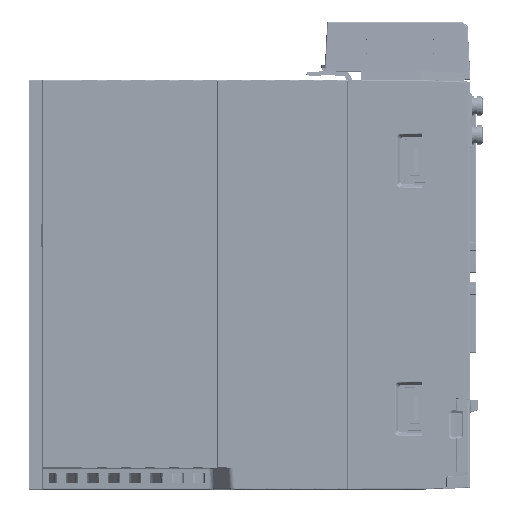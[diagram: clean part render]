
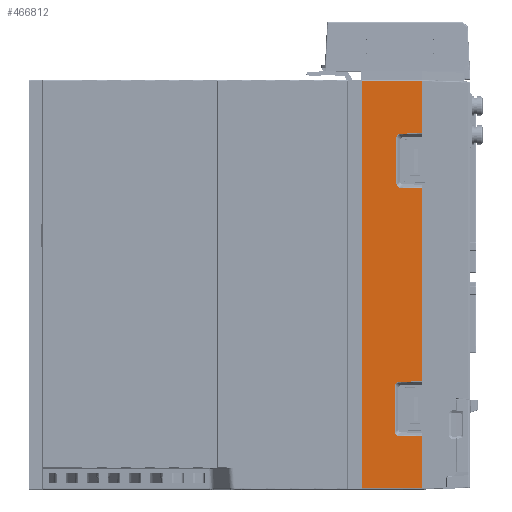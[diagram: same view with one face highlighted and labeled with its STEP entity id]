
A CAD part, left-side view. The second image highlights one B-rep face of the part: STEP entity #466812.
In plain terms, the highlighted planar face has unit normal (-1, 0, 0) as drawn and (0, 0, 1) by its records, which use the part's own axes.
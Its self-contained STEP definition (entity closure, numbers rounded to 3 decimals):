
#426841=DIRECTION('',(1.,0.,0.));
#426842=VECTOR('',#426841,169.);
#426843=CARTESIAN_POINT('',(-84.5,54.185,13.653));
#426844=LINE('',#426843,#426842);
#426848=DIRECTION('',(-1.,0.,0.));
#426849=VECTOR('',#426848,21.545);
#426850=CARTESIAN_POINT('',(-62.955,79.018,
13.653));
#426851=LINE('',#426850,#426849);
#426855=DIRECTION('',(-0.028,1.,
0.));
#426856=VECTOR('',#426855,8.898);
#426857=CARTESIAN_POINT('',(-62.708,70.123,
13.653));
#426858=LINE('',#426857,#426856);
#426862=DIRECTION('',(-0.028,-1.,
0.));
#426863=VECTOR('',#426862,8.898);
#426864=CARTESIAN_POINT('',(-40.045,79.018,
13.653));
#426865=LINE('',#426864,#426863);
#426869=DIRECTION('',(-1.,0.,0.));
#426870=VECTOR('',#426869,80.05);
#426871=CARTESIAN_POINT('',(40.005,79.018,
13.653));
#426872=LINE('',#426871,#426870);
#426876=DIRECTION('',(-0.028,1.,
0.));
#426877=VECTOR('',#426876,9.624);
#426878=CARTESIAN_POINT('',(40.272,69.397,
13.653));
#426879=LINE('',#426878,#426877);
#426883=DIRECTION('',(-0.028,-1.,
0.));
#426884=VECTOR('',#426883,9.624);
#426885=CARTESIAN_POINT('',(62.955,79.018,
13.653));
#426886=LINE('',#426885,#426884);
#426890=DIRECTION('',(-1.,0.,0.));
#426891=VECTOR('',#426890,21.545);
#426892=CARTESIAN_POINT('',(84.5,79.018,13.653));
#426893=LINE('',#426892,#426891);
#426915=CARTESIAN_POINT('',(84.5,54.185,13.653));
#433622=CARTESIAN_POINT('',(-62.708,70.123,
13.653));
#433623=CARTESIAN_POINT('',(-62.694,69.9,
13.653));
#433624=CARTESIAN_POINT('',(-62.622,69.498,
13.653));
#433625=CARTESIAN_POINT('',(-62.382,69.07,
13.653));
#433626=CARTESIAN_POINT('',(-61.993,68.706,
13.653));
#433627=CARTESIAN_POINT('',(-61.574,68.504,
13.653));
#433628=CARTESIAN_POINT('',(-61.189,68.447,
13.653));
#433629=CARTESIAN_POINT('',(-60.976,68.439,
13.653));
#434204=CARTESIAN_POINT('',(-42.024,68.439,
13.653));
#434205=CARTESIAN_POINT('',(-41.8,68.447,
13.653));
#434206=CARTESIAN_POINT('',(-41.396,68.508,
13.653));
#434207=CARTESIAN_POINT('',(-40.962,68.735,
13.653));
#434208=CARTESIAN_POINT('',(-40.587,69.115,
13.653));
#434209=CARTESIAN_POINT('',(-40.374,69.528,
13.653));
#434210=CARTESIAN_POINT('',(-40.305,69.911,
13.653));
#434211=CARTESIAN_POINT('',(-40.292,70.123,
13.653));
#434254=DIRECTION('',(1.,0.,0.));
#434255=VECTOR('',#434254,18.953);
#434256=CARTESIAN_POINT('',(-60.976,68.439,
13.653));
#434257=LINE('',#434256,#434255);
#434473=DIRECTION('',(0.,1.,0.));
#434474=VECTOR('',#434473,24.833);
#434475=CARTESIAN_POINT('',(-84.5,54.185,13.653));
#434476=LINE('',#434475,#434474);
#449162=DIRECTION('',(0.,-1.,0.));
#449163=VECTOR('',#449162,24.833);
#449164=CARTESIAN_POINT('',(84.5,79.018,13.653));
#449165=LINE('',#449164,#449163);
#450668=CARTESIAN_POINT('',(60.956,67.713,
13.653));
#450669=CARTESIAN_POINT('',(61.18,67.72,
13.653));
#450670=CARTESIAN_POINT('',(61.584,67.782,
13.653));
#450671=CARTESIAN_POINT('',(62.018,68.009,
13.653));
#450672=CARTESIAN_POINT('',(62.393,68.389,
13.653));
#450673=CARTESIAN_POINT('',(62.606,68.802,
13.653));
#450674=CARTESIAN_POINT('',(62.675,69.185,
13.653));
#450675=CARTESIAN_POINT('',(62.688,69.397,
13.653));
#450712=DIRECTION('',(1.,0.,0.));
#450713=VECTOR('',#450712,18.953);
#450714=CARTESIAN_POINT('',(42.003,67.713,
13.653));
#450715=LINE('',#450714,#450713);
#450726=CARTESIAN_POINT('',(40.272,69.397,
13.653));
#450727=CARTESIAN_POINT('',(40.285,69.173,
13.653));
#450728=CARTESIAN_POINT('',(40.358,68.772,
13.653));
#450729=CARTESIAN_POINT('',(40.597,68.344,
13.653));
#450730=CARTESIAN_POINT('',(40.987,67.98,
13.653));
#450731=CARTESIAN_POINT('',(41.406,67.778,
13.653));
#450732=CARTESIAN_POINT('',(41.791,67.72,
13.653));
#450733=CARTESIAN_POINT('',(42.003,67.713,
13.653));
#461810=VERTEX_POINT('',#426915);
#461811=CARTESIAN_POINT('',(-84.5,54.185,13.653));
#461812=VERTEX_POINT('',#461811);
#462058=CARTESIAN_POINT('',(84.5,79.018,13.653));
#462059=VERTEX_POINT('',#462058);
#462060=CARTESIAN_POINT('',(62.955,79.018,
13.653));
#462061=VERTEX_POINT('',#462060);
#462062=CARTESIAN_POINT('',(62.688,69.397,
13.653));
#462063=VERTEX_POINT('',#462062);
#462064=VERTEX_POINT('',#450668);
#462065=CARTESIAN_POINT('',(42.003,67.713,
13.653));
#462066=VERTEX_POINT('',#462065);
#462067=VERTEX_POINT('',#450726);
#462068=CARTESIAN_POINT('',(40.005,79.018,
13.653));
#462069=VERTEX_POINT('',#462068);
#462070=CARTESIAN_POINT('',(-40.045,79.018,
13.653));
#462071=VERTEX_POINT('',#462070);
#462072=CARTESIAN_POINT('',(-40.292,70.123,
13.653));
#462073=VERTEX_POINT('',#462072);
#462074=VERTEX_POINT('',#434204);
#462075=CARTESIAN_POINT('',(-60.976,68.439,
13.653));
#462076=VERTEX_POINT('',#462075);
#462077=VERTEX_POINT('',#433622);
#462078=CARTESIAN_POINT('',(-62.955,79.018,
13.653));
#462079=VERTEX_POINT('',#462078);
#462080=CARTESIAN_POINT('',(-84.5,79.018,13.653));
#462081=VERTEX_POINT('',#462080);
#466774=CARTESIAN_POINT('',(85.,99.15,13.653));
#466775=DIRECTION('',(0.,0.,1.));
#466776=DIRECTION('',(-1.,0.,0.));
#466777=AXIS2_PLACEMENT_3D('',#466774,#466775,#466776);
#466778=PLANE('',#466777);
#466780=ORIENTED_EDGE('',*,*,#466779,.F.);
#466782=ORIENTED_EDGE('',*,*,#466781,.T.);
#466784=ORIENTED_EDGE('',*,*,#466783,.F.);
#466786=ORIENTED_EDGE('',*,*,#466785,.F.);
#466788=ORIENTED_EDGE('',*,*,#466787,.T.);
#466790=ORIENTED_EDGE('',*,*,#466789,.T.);
#466792=ORIENTED_EDGE('',*,*,#466791,.T.);
#466794=ORIENTED_EDGE('',*,*,#466793,.F.);
#466795=ORIENTED_EDGE('',*,*,#466736,.F.);
#466797=ORIENTED_EDGE('',*,*,#466796,.F.);
#466799=ORIENTED_EDGE('',*,*,#466798,.T.);
#466801=ORIENTED_EDGE('',*,*,#466800,.T.);
#466803=ORIENTED_EDGE('',*,*,#466802,.T.);
#466805=ORIENTED_EDGE('',*,*,#466804,.F.);
#466807=ORIENTED_EDGE('',*,*,#466806,.F.);
#466809=ORIENTED_EDGE('',*,*,#466808,.T.);
#466810=EDGE_LOOP('',(#466780,#466782,#466784,#466786,#466788,#466790,#466792,
#466794,#466795,#466797,#466799,#466801,#466803,#466805,#466807,#466809));
#466811=FACE_OUTER_BOUND('',#466810,.F.);
#466812=ADVANCED_FACE('',(#466811),#466778,.T.);
#433630=B_SPLINE_CURVE_WITH_KNOTS('',3,(#433622,#433623,#433624,#433625,#433626,
#433627,#433628,#433629),.UNSPECIFIED.,.F.,.F.,(4,1,1,1,1,4),(0.,0.2,0.4,
0.6,0.8,1.),.UNSPECIFIED.);
#434212=B_SPLINE_CURVE_WITH_KNOTS('',3,(#434204,#434205,#434206,#434207,#434208,
#434209,#434210,#434211),.UNSPECIFIED.,.F.,.F.,(4,1,1,1,1,4),(0.,0.2,0.4,
0.6,0.8,1.),.UNSPECIFIED.);
#450676=B_SPLINE_CURVE_WITH_KNOTS('',3,(#450668,#450669,#450670,#450671,#450672,
#450673,#450674,#450675),.UNSPECIFIED.,.F.,.F.,(4,1,1,1,1,4),(0.,0.2,0.4,
0.6,0.8,1.),.UNSPECIFIED.);
#450734=B_SPLINE_CURVE_WITH_KNOTS('',3,(#450726,#450727,#450728,#450729,#450730,
#450731,#450732,#450733),.UNSPECIFIED.,.F.,.F.,(4,1,1,1,1,4),(0.,0.2,0.4,
0.6,0.8,1.),.UNSPECIFIED.);
#466736=EDGE_CURVE('',#462069,#462071,#426872,.T.);
#466779=EDGE_CURVE('',#461812,#461810,#426844,.T.);
#466781=EDGE_CURVE('',#461812,#462081,#434476,.T.);
#466783=EDGE_CURVE('',#462079,#462081,#426851,.T.);
#466785=EDGE_CURVE('',#462077,#462079,#426858,.T.);
#466787=EDGE_CURVE('',#462077,#462076,#433630,.T.);
#466789=EDGE_CURVE('',#462076,#462074,#434257,.T.);
#466791=EDGE_CURVE('',#462074,#462073,#434212,.T.);
#466793=EDGE_CURVE('',#462071,#462073,#426865,.T.);
#466796=EDGE_CURVE('',#462067,#462069,#426879,.T.);
#466798=EDGE_CURVE('',#462067,#462066,#450734,.T.);
#466800=EDGE_CURVE('',#462066,#462064,#450715,.T.);
#466802=EDGE_CURVE('',#462064,#462063,#450676,.T.);
#466804=EDGE_CURVE('',#462061,#462063,#426886,.T.);
#466806=EDGE_CURVE('',#462059,#462061,#426893,.T.);
#466808=EDGE_CURVE('',#462059,#461810,#449165,.T.);
